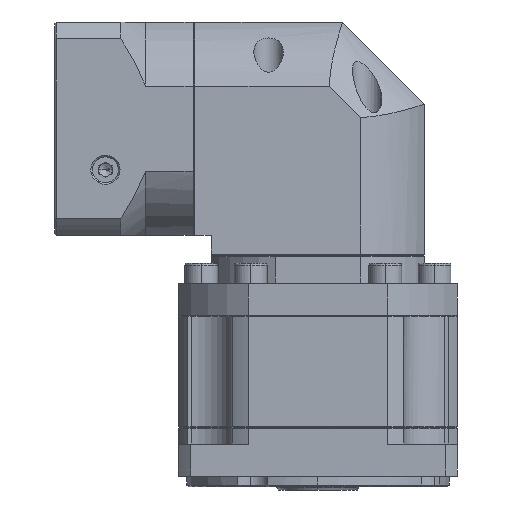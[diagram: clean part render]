
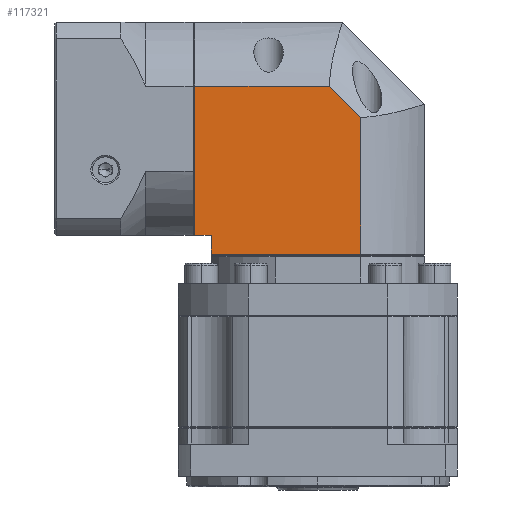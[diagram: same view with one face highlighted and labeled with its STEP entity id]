
A CAD part, left-side view. The second image highlights one B-rep face of the part: STEP entity #117321.
In plain terms, the highlighted planar face has unit normal (-1, 0, 0).
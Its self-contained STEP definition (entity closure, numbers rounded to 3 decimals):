
#2489 = ORIENTED_EDGE ( 'NONE', *, *, #96819, .F. ) ;
#3607 = LINE ( 'NONE', #126593, #71278 ) ;
#4915 = LINE ( 'NONE', #102118, #90227 ) ;
#5280 = VERTEX_POINT ( 'NONE', #110773 ) ;
#6544 = ORIENTED_EDGE ( 'NONE', *, *, #82713, .F. ) ;
#14170 = VERTEX_POINT ( 'NONE', #33432 ) ;
#24769 = CARTESIAN_POINT ( 'NONE',  ( -74.797, 44.195, 3.121 ) ) ;
#27943 = ORIENTED_EDGE ( 'NONE', *, *, #129014, .T. ) ;
#28091 = DIRECTION ( 'NONE',  ( 0., -1., 0. ) ) ;
#31399 = CARTESIAN_POINT ( 'NONE',  ( -74.797, 34.698, -48.07 ) ) ;
#33286 = FACE_OUTER_BOUND ( 'NONE', #85108, .T. ) ;
#33432 = CARTESIAN_POINT ( 'NONE',  ( -74.797, 34.698, -6.377 ) ) ;
#33632 = VECTOR ( 'NONE', #82562, 1000. ) ;
#33634 = LINE ( 'NONE', #72730, #78730 ) ;
#35805 = CARTESIAN_POINT ( 'NONE',  ( -74.797, 85.188, 3.121 ) ) ;
#35871 = CARTESIAN_POINT ( 'NONE',  ( -74.797, 80.188, -48.07 ) ) ;
#36962 = CARTESIAN_POINT ( 'NONE',  ( -74.797, 80.188, -52.37 ) ) ;
#40331 = EDGE_CURVE ( 'NONE', #45094, #14170, #4915, .T. ) ;
#43922 = LINE ( 'NONE', #36962, #52098 ) ;
#45094 = VERTEX_POINT ( 'NONE', #24769 ) ;
#47320 = DIRECTION ( 'NONE',  ( 0., 1., 0. ) ) ;
#47685 = DIRECTION ( 'NONE',  ( 0., -0.707, -0.707 ) ) ;
#49710 = LINE ( 'NONE', #118572, #68764 ) ;
#50062 = AXIS2_PLACEMENT_3D ( 'NONE', #71448, #71924, #123610 ) ;
#52098 = VECTOR ( 'NONE', #108904, 1000. ) ;
#55682 = VECTOR ( 'NONE', #113338, 1000. ) ;
#59348 = CARTESIAN_POINT ( 'NONE',  ( -74.797, 80.188, -42.37 ) ) ;
#66683 = ORIENTED_EDGE ( 'NONE', *, *, #105319, .F. ) ;
#68764 = VECTOR ( 'NONE', #28091, 1000. ) ;
#71278 = VECTOR ( 'NONE', #47320, 1000. ) ;
#71448 = CARTESIAN_POINT ( 'NONE',  ( -74.797, 15.188, -52.37 ) ) ;
#71924 = DIRECTION ( 'NONE',  ( -1., 0., 0. ) ) ;
#72730 = CARTESIAN_POINT ( 'NONE',  ( -74.797, 85.188, -42.37 ) ) ;
#72895 = CARTESIAN_POINT ( 'NONE',  ( -74.797, 15.188, 3.121 ) ) ;
#73718 = ORIENTED_EDGE ( 'NONE', *, *, #123905, .T. ) ;
#73993 = CARTESIAN_POINT ( 'NONE',  ( -74.797, 34.698, 22.63 ) ) ;
#75097 = VERTEX_POINT ( 'NONE', #31399 ) ;
#75495 = LINE ( 'NONE', #73993, #33632 ) ;
#78730 = VECTOR ( 'NONE', #94288, 1000. ) ;
#82562 = DIRECTION ( 'NONE',  ( 0., 0., -1. ) ) ;
#82713 = EDGE_CURVE ( 'NONE', #14170, #75097, #75495, .T. ) ;
#85108 = EDGE_LOOP ( 'NONE', ( #128071, #92777, #73718, #2489, #66683, #27943, #6544 ) ) ;
#90227 = VECTOR ( 'NONE', #47685, 1000. ) ;
#92575 = PLANE ( 'NONE',  #50062 ) ;
#92777 = ORIENTED_EDGE ( 'NONE', *, *, #101202, .F. ) ;
#94288 = DIRECTION ( 'NONE',  ( 0., 0., -1. ) ) ;
#96819 = EDGE_CURVE ( 'NONE', #97827, #5280, #3607, .T. ) ;
#97827 = VERTEX_POINT ( 'NONE', #59348 ) ;
#101202 = EDGE_CURVE ( 'NONE', #117509, #45094, #110378, .T. ) ;
#102118 = CARTESIAN_POINT ( 'NONE',  ( -74.797, -326.607, -367.681 ) ) ;
#105319 = EDGE_CURVE ( 'NONE', #111193, #97827, #43922, .T. ) ;
#108904 = DIRECTION ( 'NONE',  ( 0., 0., 1. ) ) ;
#110378 = LINE ( 'NONE', #72895, #55682 ) ;
#110773 = CARTESIAN_POINT ( 'NONE',  ( -74.797, 85.188, -42.37 ) ) ;
#111193 = VERTEX_POINT ( 'NONE', #35871 ) ;
#113338 = DIRECTION ( 'NONE',  ( 0., -1., 0. ) ) ;
#117321 = ADVANCED_FACE ( 'NONE', ( #33286 ), #92575, .T. ) ;
#117509 = VERTEX_POINT ( 'NONE', #35805 ) ;
#118572 = CARTESIAN_POINT ( 'NONE',  ( -74.797, 15.188, -48.07 ) ) ;
#123610 = DIRECTION ( 'NONE',  ( 0., 0., -1. ) ) ;
#123905 = EDGE_CURVE ( 'NONE', #117509, #5280, #33634, .T. ) ;
#126593 = CARTESIAN_POINT ( 'NONE',  ( -74.797, 15.188, -42.37 ) ) ;
#128071 = ORIENTED_EDGE ( 'NONE', *, *, #40331, .F. ) ;
#129014 = EDGE_CURVE ( 'NONE', #111193, #75097, #49710, .T. ) ;
